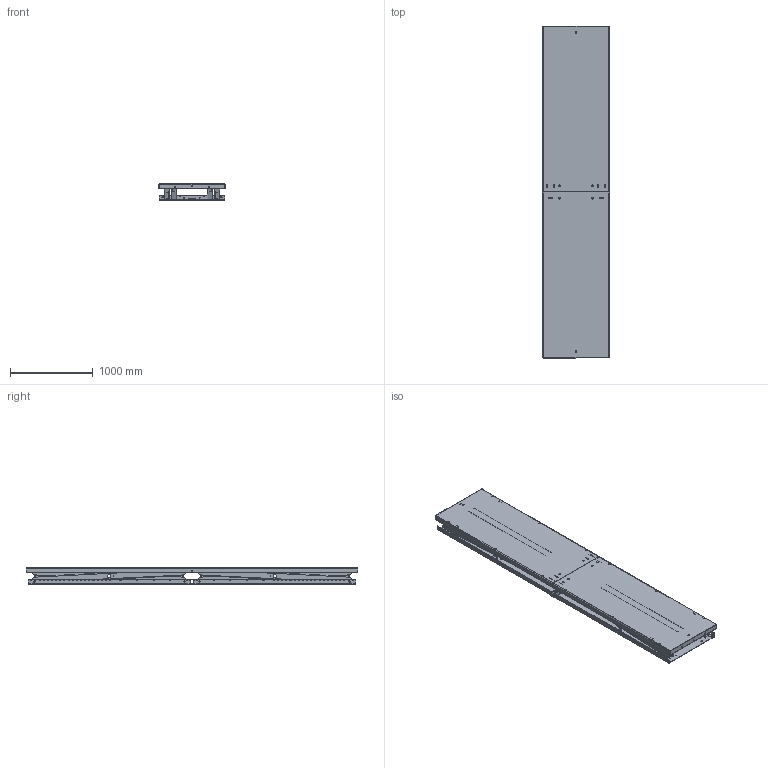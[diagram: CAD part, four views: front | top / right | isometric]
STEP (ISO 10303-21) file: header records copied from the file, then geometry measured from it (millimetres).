
FILE_DESCRIPTION(/* description */ ('TAH 2000'),/* implementation_level */ '2;1');
FILE_NAME(/* name */ 'C:\Autodesk_VaultWork\Ritningar\30000-39999\33000-33999\33885_Collapsed.stp',/* time_stamp */ '2020-02-25T16:30:05+01:00',/* author */ ('johso'),/* organization */ (''),/* preprocessor_version */ 'ST-DEVELOPER v16.5',/* originating_system */ 'Autodesk Inventor 2017',/* authorisation */ '');
FILE_SCHEMA (('AUTOMOTIVE_DESIGN { 1 0 10303 214 3 1 1 }'));
Length unit declared in the file: millimetre
Products named in the file (25): 33885.tmp; 33886; 33336; 613201; 44122; 44870; 612444; 612027; 612027_1; 33338; 33338-1; 33339; 33339-1; 614126; 614127; 45259; 614130; 614131; 614128; 614129; 80131; 41333-1300; 603235; 85955; 42394
Assembly tree (59 placements, depth 4):
  33885.tmp
    33886
      33336  x2
        613201
        45259
        44122
        44870
      612444
    612027
      33338
        33338-1  x2
      33339
        33339-1  x2
    612027_1
      33338
        33338-1  x2
      33339
        33339-1  x2
    614126
      614127
      614128
      614129
      45259  x2
      80131  x6
      85955  x3
      41333-1300
      42394  x2
    614130
      614131
      614128
      614129
      42394  x3
      80131  x6
      85955  x3
      41333-1300
      603235  x4
Bounding box: 800 x 4000 x 200 mm (x, y, z)
Volume: 49936228.6 mm3; surface area: 20253076.5 mm2
Topology: 58 solids, 58 shells, 2587 faces, 7022 edges, 4585 vertices
Faces by surface type: plane 1380, cylinder 1095, cone 96, bspline 16
Full cylindrical faces by diameter (mm): 5.5 x3, 5.6 x8, 7 x8, 7.4 x16, 8 x12, 10.2 x8, 10.5 x18, 11.63 x12, 12.5 x8, 13 x16, 13.835 x6, 14.2 x32, 18.5 x6, 19 x6, 28.1 x6, 40.2 x8, 60 x8
Entity records: 37879 total; most frequent: CARTESIAN_POINT 7033, DIRECTION 6366, ORIENTED_EDGE 6134, EDGE_CURVE 3067, AXIS2_PLACEMENT_3D 2154, LINE 2058, VECTOR 2058, VERTEX_POINT 2055
